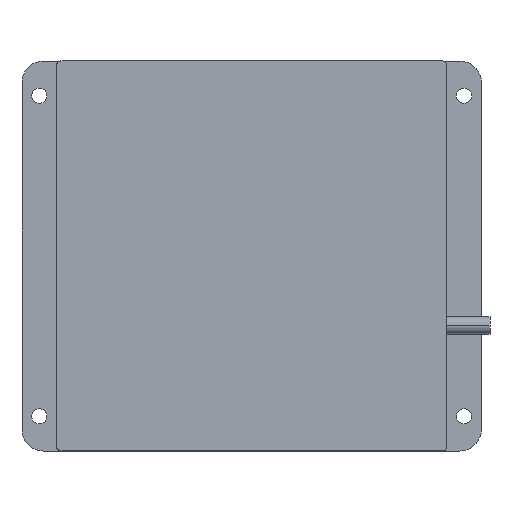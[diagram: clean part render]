
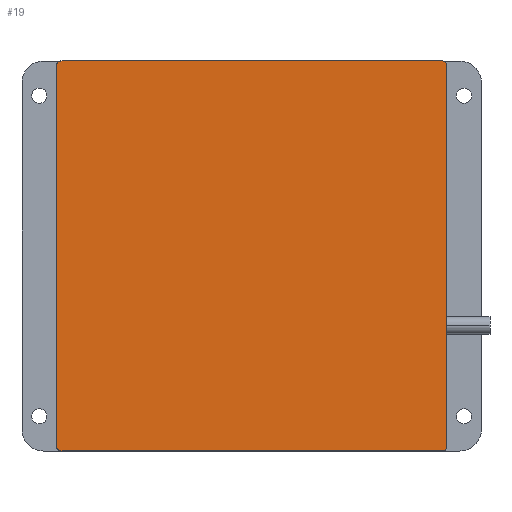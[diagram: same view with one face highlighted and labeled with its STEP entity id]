
A CAD part, top view. The second image highlights one B-rep face of the part: STEP entity #19.
In plain terms, the highlighted planar face has unit normal (0, 0, 1).
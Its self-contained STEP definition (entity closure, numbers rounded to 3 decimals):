
#18 = CARTESIAN_POINT ( 'NONE',  ( 0., 0., 17. ) ) ;
#19 = ADVANCED_FACE ( 'NONE', ( #255 ), #705, .F. ) ;
#22 = EDGE_CURVE ( 'NONE', #1312, #189, #1409, .T. ) ;
#37 = CARTESIAN_POINT ( 'NONE',  ( -44., -45., 17. ) ) ;
#55 = DIRECTION ( 'NONE',  ( 0., -1., 0. ) ) ;
#81 = EDGE_LOOP ( 'NONE', ( #602, #1083, #764, #630, #1176, #117, #250, #699 ) ) ;
#117 = ORIENTED_EDGE ( 'NONE', *, *, #643, .T. ) ;
#129 = CIRCLE ( 'NONE', #308, 1. ) ;
#143 = CARTESIAN_POINT ( 'NONE',  ( -45., -44., 17. ) ) ;
#147 = DIRECTION ( 'NONE',  ( 0., 0., 1. ) ) ;
#171 = EDGE_CURVE ( 'NONE', #731, #709, #210, .T. ) ;
#189 = VERTEX_POINT ( 'NONE', #895 ) ;
#192 = DIRECTION ( 'NONE',  ( 0., 0., 1. ) ) ;
#210 = LINE ( 'NONE', #1342, #780 ) ;
#227 = CARTESIAN_POINT ( 'NONE',  ( -45., 44., 17. ) ) ;
#233 = CARTESIAN_POINT ( 'NONE',  ( 45., -44., 17. ) ) ;
#247 = DIRECTION ( 'NONE',  ( 0., 0., -1. ) ) ;
#250 = ORIENTED_EDGE ( 'NONE', *, *, #22, .T. ) ;
#255 = FACE_OUTER_BOUND ( 'NONE', #81, .T. ) ;
#275 = DIRECTION ( 'NONE',  ( -1., 0., 0. ) ) ;
#308 = AXIS2_PLACEMENT_3D ( 'NONE', #396, #1305, #275 ) ;
#370 = VECTOR ( 'NONE', #1456, 1000. ) ;
#396 = CARTESIAN_POINT ( 'NONE',  ( -44., -44., 17. ) ) ;
#435 = AXIS2_PLACEMENT_3D ( 'NONE', #1277, #147, #1204 ) ;
#439 = LINE ( 'NONE', #860, #1334 ) ;
#470 = DIRECTION ( 'NONE',  ( 0., 1., 0. ) ) ;
#551 = EDGE_CURVE ( 'NONE', #673, #731, #129, .T. ) ;
#602 = ORIENTED_EDGE ( 'NONE', *, *, #1441, .T. ) ;
#630 = ORIENTED_EDGE ( 'NONE', *, *, #551, .T. ) ;
#643 = EDGE_CURVE ( 'NONE', #709, #1312, #1215, .T. ) ;
#653 = CARTESIAN_POINT ( 'NONE',  ( 44., 44., 17. ) ) ;
#666 = CIRCLE ( 'NONE', #435, 1. ) ;
#673 = VERTEX_POINT ( 'NONE', #143 ) ;
#699 = ORIENTED_EDGE ( 'NONE', *, *, #1190, .T. ) ;
#705 = PLANE ( 'NONE',  #1374 ) ;
#709 = VERTEX_POINT ( 'NONE', #958 ) ;
#731 = VERTEX_POINT ( 'NONE', #37 ) ;
#761 = DIRECTION ( 'NONE',  ( -1., 0., 0. ) ) ;
#764 = ORIENTED_EDGE ( 'NONE', *, *, #818, .T. ) ;
#780 = VECTOR ( 'NONE', #901, 1000. ) ;
#818 = EDGE_CURVE ( 'NONE', #1345, #673, #439, .T. ) ;
#860 = CARTESIAN_POINT ( 'NONE',  ( -45., -45., 17. ) ) ;
#878 = DIRECTION ( 'NONE',  ( 0., 0., 1. ) ) ;
#895 = CARTESIAN_POINT ( 'NONE',  ( 45., 44., 17. ) ) ;
#901 = DIRECTION ( 'NONE',  ( 1., 0., 0. ) ) ;
#905 = LINE ( 'NONE', #916, #370 ) ;
#916 = CARTESIAN_POINT ( 'NONE',  ( -45., 45., 17. ) ) ;
#919 = VERTEX_POINT ( 'NONE', #1125 ) ;
#958 = CARTESIAN_POINT ( 'NONE',  ( 44., -45., 17. ) ) ;
#1052 = CARTESIAN_POINT ( 'NONE',  ( -44., 45., 17. ) ) ;
#1083 = ORIENTED_EDGE ( 'NONE', *, *, #1102, .T. ) ;
#1102 = EDGE_CURVE ( 'NONE', #1145, #1345, #666, .T. ) ;
#1125 = CARTESIAN_POINT ( 'NONE',  ( 44., 45., 17. ) ) ;
#1145 = VERTEX_POINT ( 'NONE', #1052 ) ;
#1151 = CARTESIAN_POINT ( 'NONE',  ( 45., -45., 17. ) ) ;
#1163 = CIRCLE ( 'NONE', #1381, 1. ) ;
#1176 = ORIENTED_EDGE ( 'NONE', *, *, #171, .T. ) ;
#1190 = EDGE_CURVE ( 'NONE', #189, #919, #1163, .T. ) ;
#1204 = DIRECTION ( 'NONE',  ( -1., 0., 0. ) ) ;
#1205 = CARTESIAN_POINT ( 'NONE',  ( 44., -44., 17. ) ) ;
#1215 = CIRCLE ( 'NONE', #1392, 1. ) ;
#1255 = DIRECTION ( 'NONE',  ( -1., 0., 0. ) ) ;
#1277 = CARTESIAN_POINT ( 'NONE',  ( -44., 44., 17. ) ) ;
#1305 = DIRECTION ( 'NONE',  ( 0., 0., 1. ) ) ;
#1312 = VERTEX_POINT ( 'NONE', #233 ) ;
#1334 = VECTOR ( 'NONE', #55, 1000. ) ;
#1342 = CARTESIAN_POINT ( 'NONE',  ( -45., -45., 17. ) ) ;
#1345 = VERTEX_POINT ( 'NONE', #227 ) ;
#1374 = AXIS2_PLACEMENT_3D ( 'NONE', #18, #247, #1255 ) ;
#1379 = DIRECTION ( 'NONE',  ( -1., 0., 0. ) ) ;
#1381 = AXIS2_PLACEMENT_3D ( 'NONE', #653, #192, #761 ) ;
#1392 = AXIS2_PLACEMENT_3D ( 'NONE', #1205, #878, #1379 ) ;
#1409 = LINE ( 'NONE', #1151, #1442 ) ;
#1441 = EDGE_CURVE ( 'NONE', #919, #1145, #905, .T. ) ;
#1442 = VECTOR ( 'NONE', #470, 1000. ) ;
#1456 = DIRECTION ( 'NONE',  ( -1., 0., 0. ) ) ;
